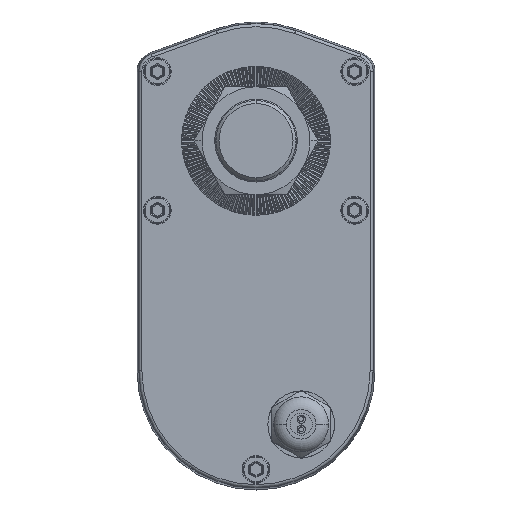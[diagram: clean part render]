
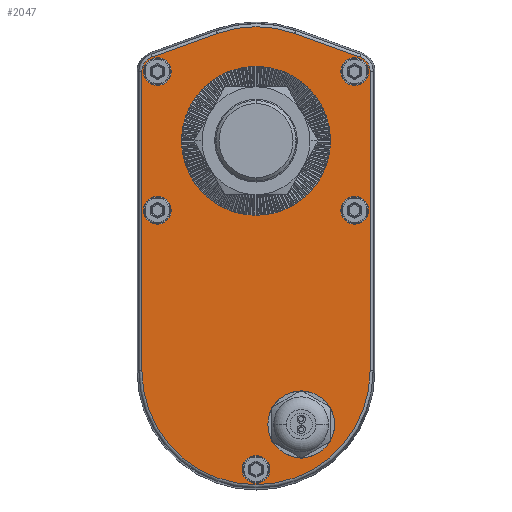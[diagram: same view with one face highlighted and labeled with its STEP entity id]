
A CAD part, top view. The second image highlights one B-rep face of the part: STEP entity #2047.
In plain terms, the highlighted planar face has unit normal (0, 0, 1).
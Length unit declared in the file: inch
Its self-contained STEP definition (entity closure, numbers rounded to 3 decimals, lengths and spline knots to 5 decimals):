
#2047=ADVANCED_FACE('NONE',(#4472,#4473,#4474,#4475,#4476,#4477,#4478,#4479),#4480,.F.);
#4472=FACE_OUTER_BOUND('',#8499,.T.);
#4473=FACE_BOUND('',#8500,.T.);
#4474=FACE_BOUND('',#8501,.T.);
#4475=FACE_BOUND('',#8502,.T.);
#4476=FACE_BOUND('',#8503,.T.);
#4477=FACE_BOUND('',#8504,.T.);
#4478=FACE_BOUND('',#8505,.T.);
#4479=FACE_BOUND('',#8506,.T.);
#4480=PLANE('',#8507);
#8499=EDGE_LOOP('',(#15228,#15229,#15230,#15231,#15232,#15233,#15234,#15235));
#8500=EDGE_LOOP('',(#15236,#15237));
#8501=EDGE_LOOP('',(#15238,#15239));
#8502=EDGE_LOOP('',(#15240,#15241));
#8503=EDGE_LOOP('',(#15242,#15243));
#8504=EDGE_LOOP('',(#15244,#15245));
#8505=EDGE_LOOP('',(#15246,#15247));
#8506=EDGE_LOOP('',(#15248,#15249));
#8507=AXIS2_PLACEMENT_3D('',#15250,#15251,#15252);
#15228=ORIENTED_EDGE('',*,*,#20773,.T.);
#15229=ORIENTED_EDGE('',*,*,#21250,.T.);
#15230=ORIENTED_EDGE('',*,*,#21251,.T.);
#15231=ORIENTED_EDGE('',*,*,#20547,.T.);
#15232=ORIENTED_EDGE('',*,*,#21252,.T.);
#15233=ORIENTED_EDGE('',*,*,#19201,.T.);
#15234=ORIENTED_EDGE('',*,*,#21253,.T.);
#15235=ORIENTED_EDGE('',*,*,#21254,.T.);
#15236=ORIENTED_EDGE('',*,*,#20611,.F.);
#15237=ORIENTED_EDGE('',*,*,#21255,.F.);
#15238=ORIENTED_EDGE('',*,*,#20577,.F.);
#15239=ORIENTED_EDGE('',*,*,#21256,.F.);
#15240=ORIENTED_EDGE('',*,*,#21257,.F.);
#15241=ORIENTED_EDGE('',*,*,#21258,.F.);
#15242=ORIENTED_EDGE('',*,*,#19598,.F.);
#15243=ORIENTED_EDGE('',*,*,#19384,.F.);
#15244=ORIENTED_EDGE('',*,*,#21259,.F.);
#15245=ORIENTED_EDGE('',*,*,#19705,.F.);
#15246=ORIENTED_EDGE('',*,*,#21260,.F.);
#15247=ORIENTED_EDGE('',*,*,#19457,.F.);
#15248=ORIENTED_EDGE('',*,*,#19630,.F.);
#15249=ORIENTED_EDGE('',*,*,#20176,.F.);
#15250=CARTESIAN_POINT('',(0.0,0.0,1.5748));
#15251=DIRECTION('',(-0.0,-0.0,-1.0));
#15252=DIRECTION('',(0.0,-1.0,0.0));
#19201=EDGE_CURVE('NONE',#22776,#22780,#22782,.T.);
#19384=EDGE_CURVE('NONE',#23097,#23095,#23099,.T.);
#19457=EDGE_CURVE('NONE',#23222,#23225,#23226,.T.);
#19598=EDGE_CURVE('NONE',#23095,#23097,#23457,.T.);
#19630=EDGE_CURVE('NONE',#23508,#23510,#23511,.T.);
#19705=EDGE_CURVE('NONE',#23630,#23632,#23633,.T.);
#20176=EDGE_CURVE('NONE',#23510,#23508,#24382,.T.);
#20547=EDGE_CURVE('NONE',#24931,#24929,#24932,.T.);
#20577=EDGE_CURVE('NONE',#24976,#24979,#24980,.T.);
#20611=EDGE_CURVE('NONE',#25032,#25034,#25035,.T.);
#20773=EDGE_CURVE('NONE',#25271,#25273,#25275,.T.);
#21250=EDGE_CURVE('NONE',#25273,#25896,#25897,.T.);
#21251=EDGE_CURVE('NONE',#25896,#24931,#25898,.T.);
#21252=EDGE_CURVE('NONE',#24929,#22776,#25899,.T.);
#21253=EDGE_CURVE('NONE',#22780,#25900,#25901,.T.);
#21254=EDGE_CURVE('NONE',#25900,#25271,#25902,.T.);
#21255=EDGE_CURVE('NONE',#25034,#25032,#25903,.T.);
#21256=EDGE_CURVE('NONE',#24979,#24976,#25904,.T.);
#21257=EDGE_CURVE('NONE',#25905,#25906,#25907,.T.);
#21258=EDGE_CURVE('NONE',#25906,#25905,#25908,.T.);
#21259=EDGE_CURVE('NONE',#23632,#23630,#25909,.T.);
#21260=EDGE_CURVE('NONE',#23225,#23222,#25910,.T.);
#22776=VERTEX_POINT('NONE',#28450);
#22780=VERTEX_POINT('NONE',#28454);
#22782=CIRCLE('',#28456,1.45738);
#23095=VERTEX_POINT('NONE',#29192);
#23097=VERTEX_POINT('',#29195);
#23099=CIRCLE('',#29198,0.17717);
#23222=VERTEX_POINT('',#29542);
#23225=VERTEX_POINT('NONE',#29546);
#23226=CIRCLE('',#29547,0.17717);
#23457=CIRCLE('',#30085,0.17717);
#23508=VERTEX_POINT('NONE',#30171);
#23510=VERTEX_POINT('',#30174);
#23511=CIRCLE('',#30175,0.31004);
#23630=VERTEX_POINT('',#30497);
#23632=VERTEX_POINT('NONE',#30500);
#23633=CIRCLE('',#30501,0.17717);
#24382=CIRCLE('',#32379,0.31004);
#24929=VERTEX_POINT('NONE',#33748);
#24931=VERTEX_POINT('NONE',#33750);
#24932=CIRCLE('',#33751,0.19754);
#24976=VERTEX_POINT('NONE',#33850);
#24979=VERTEX_POINT('',#33854);
#24980=CIRCLE('',#33855,0.17717);
#25032=VERTEX_POINT('NONE',#33961);
#25034=VERTEX_POINT('',#33964);
#25035=CIRCLE('',#33965,0.94882);
#25271=VERTEX_POINT('NONE',#35040);
#25273=VERTEX_POINT('NONE',#35042);
#25275=LINE('',#35044,#35045);
#25896=VERTEX_POINT('NONE',#36657);
#25897=CIRCLE('',#36658,1.45718);
#25898=LINE('',#36659,#36660);
#25899=LINE('',#36661,#36662);
#25900=VERTEX_POINT('NONE',#36663);
#25901=LINE('',#36664,#36665);
#25902=CIRCLE('',#36666,0.19754);
#25903=CIRCLE('',#36667,0.94882);
#25904=CIRCLE('',#36668,0.17717);
#25905=VERTEX_POINT('NONE',#36669);
#25906=VERTEX_POINT('',#36670);
#25907=CIRCLE('',#36671,0.17717);
#25908=CIRCLE('',#36672,0.17717);
#25909=CIRCLE('',#36673,0.17717);
#25910=CIRCLE('',#36674,0.17717);
#28450=CARTESIAN_POINT('',(0.49549,1.37056,1.5748));
#28454=CARTESIAN_POINT('',(-0.49549,1.37056,1.5748));
#28456=AXIS2_PLACEMENT_3D('',#40215,#40216,#40217);
#29192=CARTESIAN_POINT('',(0.17717,-4.19449,1.5748));
#29195=CARTESIAN_POINT('',(-0.17717,-4.19449,1.5748));
#29198=AXIS2_PLACEMENT_3D('',#40396,#40397,#40398);
#29542=CARTESIAN_POINT('',(1.43701,0.88425,1.5748));
#29546=CARTESIAN_POINT('',(1.08268,0.88425,1.5748));
#29547=AXIS2_PLACEMENT_3D('',#40462,#40463,#40464);
#30085=AXIS2_PLACEMENT_3D('',#40601,#40602,#40603);
#30171=CARTESIAN_POINT('',(0.26697,-3.62071,1.5748));
#30174=CARTESIAN_POINT('',(0.88705,-3.62071,1.5748));
#30175=AXIS2_PLACEMENT_3D('',#40644,#40645,#40646);
#30497=CARTESIAN_POINT('',(1.43701,-0.8874,1.5748));
#30500=CARTESIAN_POINT('',(1.08268,-0.8874,1.5748));
#30501=AXIS2_PLACEMENT_3D('',#40704,#40705,#40706);
#32379=AXIS2_PLACEMENT_3D('',#41154,#41155,#41156);
#33748=CARTESIAN_POINT('',(1.32681,1.07002,1.5748));
#33750=CARTESIAN_POINT('',(1.45718,0.88425,1.5748));
#33751=AXIS2_PLACEMENT_3D('',#41490,#41491,#41492);
#33850=CARTESIAN_POINT('',(-1.08268,0.88425,1.5748));
#33854=CARTESIAN_POINT('',(-1.43701,0.88425,1.5748));
#33855=AXIS2_PLACEMENT_3D('',#41522,#41523,#41524);
#33961=CARTESIAN_POINT('',(-0.94882,0.0,1.5748));
#33964=CARTESIAN_POINT('',(0.94882,0.,1.5748));
#33965=AXIS2_PLACEMENT_3D('',#41567,#41568,#41569);
#35040=CARTESIAN_POINT('',(-1.45718,0.88425,1.5748));
#35042=CARTESIAN_POINT('',(-1.45718,-2.93287,1.5748));
#35044=CARTESIAN_POINT('',(-1.45718,-2.93287,1.5748));
#35045=VECTOR('',#41720,39.37008);
#36657=CARTESIAN_POINT('',(1.45718,-2.93287,1.5748));
#36658=AXIS2_PLACEMENT_3D('',#42137,#42138,#42139);
#36659=CARTESIAN_POINT('',(1.45718,0.88425,1.5748));
#36660=VECTOR('',#42140,39.37008);
#36661=CARTESIAN_POINT('',(0.49549,1.37056,1.5748));
#36662=VECTOR('',#42141,39.37008);
#36663=CARTESIAN_POINT('',(-1.32681,1.07002,1.5748));
#36664=CARTESIAN_POINT('',(-1.32681,1.07002,1.5748));
#36665=VECTOR('',#42142,39.37008);
#36666=AXIS2_PLACEMENT_3D('',#42143,#42144,#42145);
#36667=AXIS2_PLACEMENT_3D('',#42146,#42147,#42148);
#36668=AXIS2_PLACEMENT_3D('',#42149,#42150,#42151);
#36669=CARTESIAN_POINT('',(-1.08268,-0.8874,1.5748));
#36670=CARTESIAN_POINT('',(-1.43701,-0.8874,1.5748));
#36671=AXIS2_PLACEMENT_3D('',#42152,#42153,#42154);
#36672=AXIS2_PLACEMENT_3D('',#42155,#42156,#42157);
#36673=AXIS2_PLACEMENT_3D('',#42158,#42159,#42160);
#36674=AXIS2_PLACEMENT_3D('',#42161,#42162,#42163);
#40215=CARTESIAN_POINT('',(0.0,0.0,1.5748));
#40216=DIRECTION('',(0.0,0.0,1.0));
#40217=DIRECTION('',(-1.0,0.,0.0));
#40396=CARTESIAN_POINT('',(0.,-4.19449,1.5748));
#40397=DIRECTION('',(0.0,0.0,1.0));
#40398=DIRECTION('',(1.0,0.0,0.0));
#40462=CARTESIAN_POINT('',(1.25984,0.88425,1.5748));
#40463=DIRECTION('',(0.0,0.0,1.0));
#40464=DIRECTION('',(-1.0,0.0,0.0));
#40601=CARTESIAN_POINT('',(0.,-4.19449,1.5748));
#40602=DIRECTION('',(0.0,0.0,1.0));
#40603=DIRECTION('',(1.0,0.0,0.0));
#40644=CARTESIAN_POINT('',(0.57701,-3.62071,1.5748));
#40645=DIRECTION('',(0.0,0.0,1.0));
#40646=DIRECTION('',(-1.0,0.0,0.0));
#40704=CARTESIAN_POINT('',(1.25984,-0.8874,1.5748));
#40705=DIRECTION('',(0.0,0.0,1.0));
#40706=DIRECTION('',(-1.0,0.0,0.0));
#41154=CARTESIAN_POINT('',(0.57701,-3.62071,1.5748));
#41155=DIRECTION('',(0.0,0.0,1.0));
#41156=DIRECTION('',(-1.0,0.0,0.0));
#41490=CARTESIAN_POINT('',(1.25965,0.88425,1.5748));
#41491=DIRECTION('',(0.0,0.0,1.0));
#41492=DIRECTION('',(-1.0,0.,0.0));
#41522=CARTESIAN_POINT('',(-1.25984,0.88425,1.5748));
#41523=DIRECTION('',(0.0,0.0,1.0));
#41524=DIRECTION('',(1.0,0.0,0.0));
#41567=CARTESIAN_POINT('',(0.0,0.0,1.5748));
#41568=DIRECTION('',(0.0,0.0,1.0));
#41569=DIRECTION('',(-1.0,0.0,0.0));
#41720=DIRECTION('',(0.,-1.0,-0.0));
#42137=CARTESIAN_POINT('',(0.0,-2.93287,1.5748));
#42138=DIRECTION('',(0.0,0.0,1.0));
#42139=DIRECTION('',(-1.0,0.0,0.0));
#42140=DIRECTION('',(0.,1.0,-0.0));
#42141=DIRECTION('',(-0.94,0.34,-0.0));
#42142=DIRECTION('',(-0.94,-0.34,-0.0));
#42143=CARTESIAN_POINT('',(-1.25965,0.88425,1.5748));
#42144=DIRECTION('',(0.0,0.0,1.0));
#42145=DIRECTION('',(-1.0,0.0,0.0));
#42146=CARTESIAN_POINT('',(0.0,0.0,1.5748));
#42147=DIRECTION('',(0.0,0.0,1.0));
#42148=DIRECTION('',(-1.0,0.0,0.0));
#42149=CARTESIAN_POINT('',(-1.25984,0.88425,1.5748));
#42150=DIRECTION('',(0.0,0.0,1.0));
#42151=DIRECTION('',(1.0,0.0,0.0));
#42152=CARTESIAN_POINT('',(-1.25984,-0.8874,1.5748));
#42153=DIRECTION('',(0.0,0.0,1.0));
#42154=DIRECTION('',(1.0,0.0,0.0));
#42155=CARTESIAN_POINT('',(-1.25984,-0.8874,1.5748));
#42156=DIRECTION('',(0.0,0.0,1.0));
#42157=DIRECTION('',(1.0,0.0,0.0));
#42158=CARTESIAN_POINT('',(1.25984,-0.8874,1.5748));
#42159=DIRECTION('',(0.0,0.0,1.0));
#42160=DIRECTION('',(-1.0,0.0,0.0));
#42161=CARTESIAN_POINT('',(1.25984,0.88425,1.5748));
#42162=DIRECTION('',(0.0,0.0,1.0));
#42163=DIRECTION('',(-1.0,0.0,0.0));
